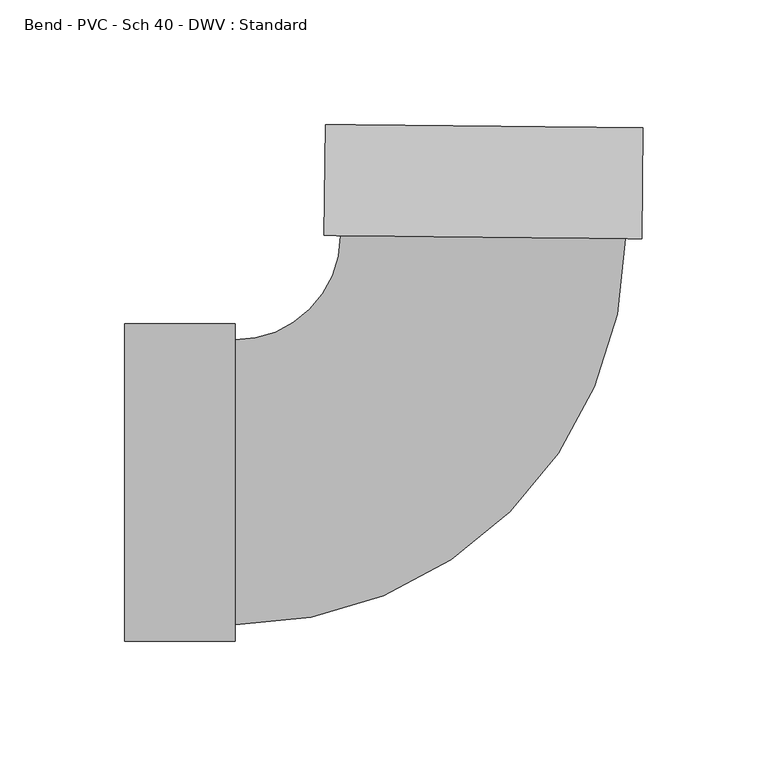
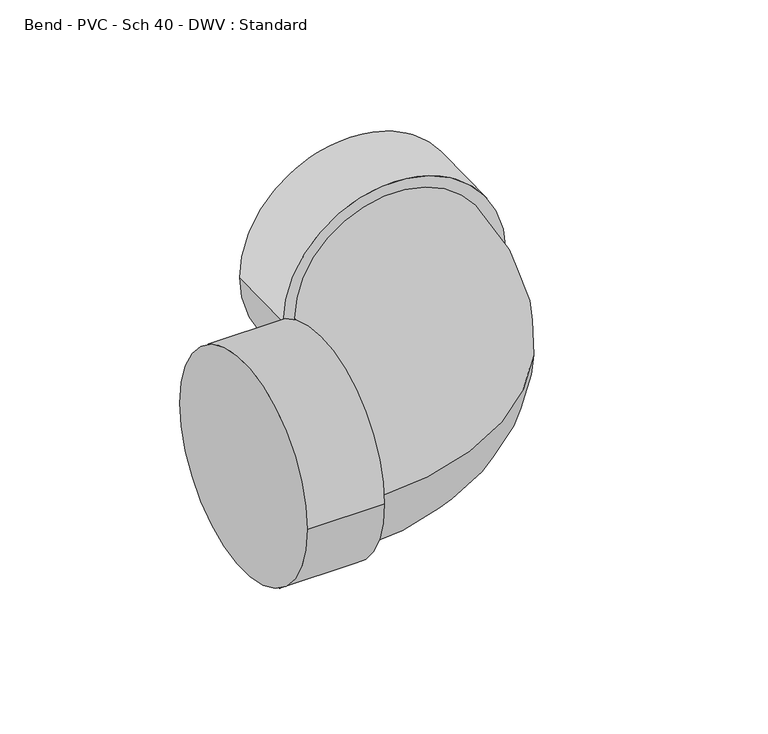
"""IFC4 building model written with IfcOpenShell, lengths in millimetres: pipe fitting geometry, Bend - PVC - Sch 40 - DWV : Standard."""

from ifc_helpers import new_model, si_unit, point, frame, origin, place, context, project, spatial, circle_curve, ellipse_curve, trimmed, source, transform, mapped, element, save
from ifc_brep_helpers import plane_surface, cylinder_surface, revolved_surface, advanced_brep


def bend_pvc_sch_40_dwv_standard_5cc4eb0d(model_context):
    return source(origin(), model_context, "Body", "AdvancedBrep", [
        advanced_brep(
        [(-142.875, -63.754, 0.0), (-142.875, 63.754, 0.0), (-98.425, -63.754, 0.0), (-98.425, 63.754, 0.0), (-98.425, -57.15, 0.0), (-98.425, 57.15, 0.0), (-56.121223, 99.0152082, 0.0), (58.1725707, 97.8241031, 0.0), (64.7762121, 97.7552837, 0.0), (-62.7248644, 99.0840276, 0.0), (65.2394197, 142.2028701, 0.0), (-62.2616568, 143.531614, 0.0)],
        [
            (0, 1, circle_curve(frame((-142.875, 0.0, 0.0), z_axis=(-1.0, 0.0, 0.0), x_axis=(0.0, 1.0, 0.0)), 63.754)),
            (1, 0, circle_curve(frame((-142.875, 0.0, 0.0), z_axis=(-1.0, 0.0, 0.0), x_axis=(0.0, 1.0, 0.0)), 63.754)),
            (2, 3, circle_curve(frame((-98.425, 0.0, 0.0), z_axis=(1.0, 0.0, 0.0), x_axis=(0.0, 1.0, 0.0)), 63.754)),
            (3, 2, circle_curve(frame((-98.425, 0.0, 0.0), z_axis=(1.0, 0.0, 0.0), x_axis=(0.0, 1.0, 0.0)), 63.754)),
            (4, 5, circle_curve(frame((-98.425, 0.0, 0.0), z_axis=(-1.0, 0.0, 0.0), x_axis=(0.0, 1.0, 0.0)), 57.15)),
            (5, 4, circle_curve(frame((-98.425, 0.0, 0.0), z_axis=(-1.0, 0.0, 0.0), x_axis=(0.0, 1.0, 0.0)), 57.15)),
            (0, 2),
            (3, 1),
            (6, 5, circle_curve(frame((-98.425, 99.4560742, 0.0), z_axis=(0.0, 0.0, -1.0), x_axis=(0.0, -1.0, 0.0)), 42.3060742)),
            (4, 7, circle_curve(frame((-98.425, 99.4560742, 0.0), z_axis=(0.0, 0.0, 1.0), x_axis=(0.0, -1.0, 0.0)), 156.6060742)),
            (7, 6, circle_curve(frame((1.0256739, 98.4196556, 0.0), z_axis=(-0.010420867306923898, -0.9999457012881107, 0.0), x_axis=(-0.9999457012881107, 0.010420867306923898, 0.0)), 57.15)),
            (6, 7, circle_curve(frame((1.0256739, 98.4196556, 0.0), z_axis=(-0.010420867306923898, -0.9999457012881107, 0.0), x_axis=(-0.9999457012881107, 0.010420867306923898, 0.0)), 57.15)),
            (8, 9, circle_curve(frame((1.0256739, 98.4196556, 0.0), z_axis=(-0.010420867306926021, -0.9999457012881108, 0.0), x_axis=(-0.9999457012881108, 0.010420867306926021, 0.0)), 63.754)),
            (9, 8, circle_curve(frame((1.0256739, 98.4196556, 0.0), z_axis=(-0.010420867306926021, -0.9999457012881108, 0.0), x_axis=(-0.9999457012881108, 0.010420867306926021, 0.0)), 63.754)),
            (10, 11, circle_curve(frame((1.4888814, 142.8672421, 0.0), z_axis=(0.010420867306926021, 0.9999457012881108, 0.0), x_axis=(-0.9999457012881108, 0.010420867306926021, 0.0)), 63.754)),
            (11, 10, circle_curve(frame((1.4888814, 142.8672421, 0.0), z_axis=(0.010420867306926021, 0.9999457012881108, 0.0), x_axis=(-0.9999457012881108, 0.010420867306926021, 0.0)), 63.754)),
            (8, 10),
            (11, 9),
        ],
        [
            plane_surface(frame((-142.875, 0.0, 0.0), z_axis=(-1.0, 0.0, 0.0), x_axis=(0.0, 0.0, 1.0))),
            plane_surface(frame((-98.425, 0.0, 0.0), z_axis=(1.0, 0.0, 0.0), x_axis=(0.0, 0.0, 1.0))),
            cylinder_surface(frame((-142.875, 0.0, 0.0), z_axis=(-1.0, 0.0, 0.0), x_axis=(0.0, 1.0, 0.0)), 63.754),
            revolved_surface(trimmed(ellipse_curve(frame((-98.425, 0.0, 0.0), z_axis=(-1.0, 0.0, 0.0), x_axis=(0.0, 1.0, 0.0)), 57.15, 57.15), [point((-98.425, -57.15, 0.0))], [point((-98.425, 57.15, 0.0))], True, "CARTESIAN"), (-98.425, 99.4560742, 0.0), (0.0, 0.0, 1.0)),
            revolved_surface(trimmed(ellipse_curve(frame((-98.425, 0.0, 0.0), z_axis=(-1.0, 0.0, 0.0), x_axis=(0.0, 1.0, 0.0)), 57.15, 57.15), [point((-98.425, 57.15, 0.0))], [point((-98.425, -57.15, 0.0))], True, "CARTESIAN"), (-98.425, 99.4560742, 0.0), (0.0, 0.0, 1.0)),
            plane_surface(frame((1.0256739, 98.4196556, 0.0), z_axis=(-0.010420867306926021, -0.9999457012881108, 0.0), x_axis=(0.0, 0.0, 1.0))),
            plane_surface(frame((1.4888814, 142.8672421, 0.0), z_axis=(0.010420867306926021, 0.9999457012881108, 0.0), x_axis=(0.0, 0.0, 1.0))),
            cylinder_surface(frame((1.0256739, 98.4196556, 0.0), z_axis=(-0.010420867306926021, -0.9999457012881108, 0.0), x_axis=(-0.9999457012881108, 0.010420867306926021, 0.0)), 63.754),
        ],
        [
            (0, [[1, 2]]),
            (1, [[3, 4], [5, 6]]),
            (2, [[-1, 7, -4, 8]]),
            (2, [[-2, -8, -3, -7]]),
            (3, [[9, -5, 10, 11]]),
            (4, [[-9, 12, -10, -6]]),
            (5, [[13, 14], [-11, -12]]),
            (6, [[15, 16]]),
            (7, [[-13, 17, -16, 18]]),
            (7, [[-14, -18, -15, -17]]),
        ],
    ),
    ])


if __name__ == "__main__":
    model = new_model("IFC4")
    model_context = context("Model", 3, world=origin())
    ifc_project = project(units=[si_unit("LENGTHUNIT", "METRE", prefix="MILLI")], contexts=[model_context])
    site = spatial("IfcSite", under=ifc_project)
    building = spatial("IfcBuilding", under=site)
    placement = place(None, origin())
    bend_pvc_sch_40_dwv_standard_shape = bend_pvc_sch_40_dwv_standard_5cc4eb0d(model_context)
    element("IfcPipeFitting", 1, ObjectType="Bend - PVC - Sch 40 - DWV : Standard", at=placement, inside=building, context=model_context, shape_type="MappedRepresentation", body=[
        mapped(bend_pvc_sch_40_dwv_standard_shape, transform((0.0, 0.0, 0.0), x_axis=(1.0, 0.0, 0.0), y_axis=(0.0, 1.0, 0.0), z_axis=(0.0, 0.0, 1.0))),
    ])
    save(model, "model.ifc")
